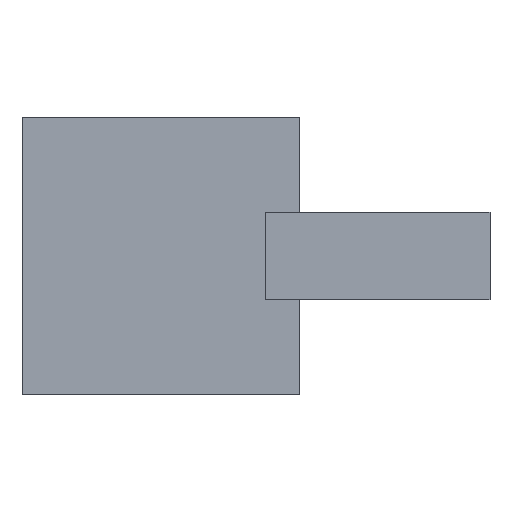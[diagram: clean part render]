
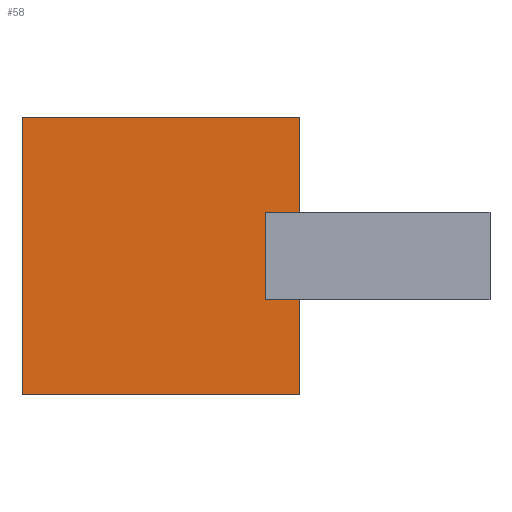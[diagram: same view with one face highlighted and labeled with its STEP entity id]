
A CAD part, top view. The second image highlights one B-rep face of the part: STEP entity #58.
In plain terms, the highlighted planar face has unit normal (0, 0, 1).
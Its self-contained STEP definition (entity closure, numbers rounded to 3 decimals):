
#58=ADVANCED_FACE('',(#166),#168,.T.);
#166=FACE_BOUND('',#167,.T.);
#167=EDGE_LOOP('',(#250,#251,#252,#253,#254,#255,#256,#257));
#168=PLANE('',#169);
#169=AXIS2_PLACEMENT_3D('',#170,#171,#172);
#170=CARTESIAN_POINT('',(0.,0.,1.));
#171=DIRECTION('',(0.,0.,1.));
#172=DIRECTION('',(-1.,0.,0.));
#250=ORIENTED_EDGE('',*,*,#306,.F.);
#251=ORIENTED_EDGE('',*,*,#307,.F.);
#252=ORIENTED_EDGE('',*,*,#308,.F.);
#253=ORIENTED_EDGE('',*,*,#309,.T.);
#254=ORIENTED_EDGE('',*,*,#310,.T.);
#255=ORIENTED_EDGE('',*,*,#311,.T.);
#256=ORIENTED_EDGE('',*,*,#312,.T.);
#257=ORIENTED_EDGE('',*,*,#313,.T.);
#306=EDGE_CURVE('',#334,#335,#336,.T.);
#307=EDGE_CURVE('',#337,#334,#338,.T.);
#308=EDGE_CURVE('',#339,#337,#340,.T.);
#309=EDGE_CURVE('',#339,#341,#342,.T.);
#310=EDGE_CURVE('',#341,#343,#344,.T.);
#311=EDGE_CURVE('',#343,#345,#346,.T.);
#312=EDGE_CURVE('',#345,#347,#348,.T.);
#313=EDGE_CURVE('',#347,#335,#349,.T.);
#334=VERTEX_POINT('',#380);
#335=VERTEX_POINT('',#381);
#336=LINE('',#382,#383);
#337=VERTEX_POINT('',#385);
#338=LINE('',#386,#387);
#339=VERTEX_POINT('',#389);
#340=LINE('',#390,#391);
#341=VERTEX_POINT('',#393);
#342=LINE('',#394,#395);
#343=VERTEX_POINT('',#397);
#344=LINE('',#398,#399);
#345=VERTEX_POINT('',#401);
#346=LINE('',#402,#403);
#347=VERTEX_POINT('',#405);
#348=LINE('',#406,#407);
#349=LINE('',#409,#410);
#380=CARTESIAN_POINT('',(3.59,-1.5,1.));
#381=CARTESIAN_POINT('',(4.75,-1.5,1.));
#382=CARTESIAN_POINT('',(3.59,-1.5,1.));
#383=VECTOR('',#384,1.);
#384=DIRECTION('',(1.,0.,0.));
#385=CARTESIAN_POINT('',(3.59,1.5,1.));
#386=CARTESIAN_POINT('',(3.59,1.5,1.));
#387=VECTOR('',#388,1.);
#388=DIRECTION('',(0.,-1.,0.));
#389=CARTESIAN_POINT('',(4.75,1.5,1.));
#390=CARTESIAN_POINT('',(4.75,1.5,1.));
#391=VECTOR('',#392,1.);
#392=DIRECTION('',(-1.,0.,0.));
#393=CARTESIAN_POINT('',(4.75,4.75,1.));
#394=CARTESIAN_POINT('',(4.75,1.5,1.));
#395=VECTOR('',#396,1.);
#396=DIRECTION('',(0.,1.,0.));
#397=CARTESIAN_POINT('',(-4.75,4.75,1.));
#398=CARTESIAN_POINT('',(4.75,4.75,1.));
#399=VECTOR('',#400,1.);
#400=DIRECTION('',(-1.,0.,0.));
#401=CARTESIAN_POINT('',(-4.75,-4.75,1.));
#402=CARTESIAN_POINT('',(-4.75,4.75,1.));
#403=VECTOR('',#404,1.);
#404=DIRECTION('',(0.,-1.,0.));
#405=CARTESIAN_POINT('',(4.75,-4.75,1.));
#406=CARTESIAN_POINT('',(-4.75,-4.75,1.));
#407=VECTOR('',#408,1.);
#408=DIRECTION('',(1.,0.,0.));
#409=CARTESIAN_POINT('',(4.75,-4.75,1.));
#410=VECTOR('',#411,1.);
#411=DIRECTION('',(0.,1.,0.));
